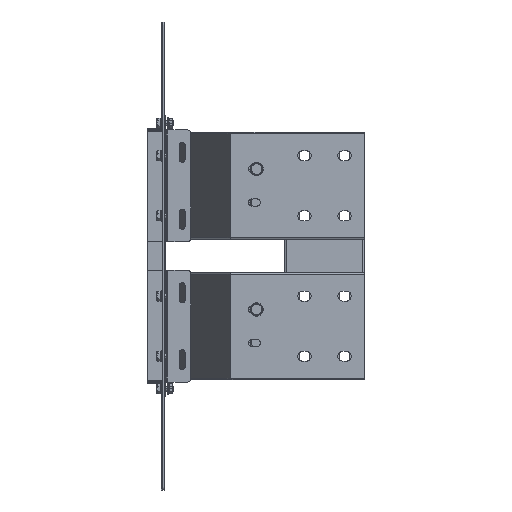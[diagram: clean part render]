
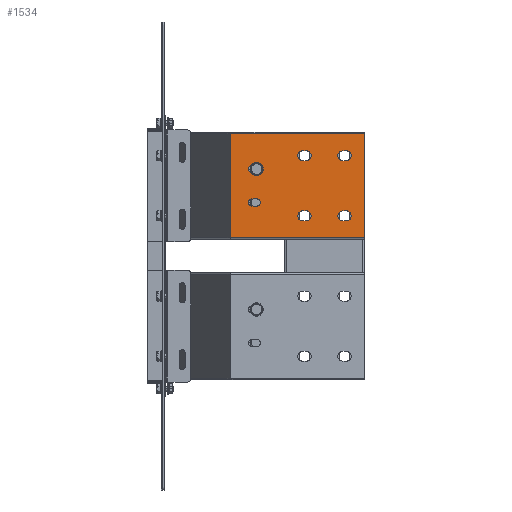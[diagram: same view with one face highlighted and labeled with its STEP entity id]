
A CAD part, front view. The second image highlights one B-rep face of the part: STEP entity #1534.
In plain terms, the highlighted planar face has unit normal (0, -1, 0).
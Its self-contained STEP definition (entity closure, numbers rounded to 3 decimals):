
#1290=AXIS2_PLACEMENT_3D('Circle Axis2P3D',#1288,#1289,$) ;
#1310=AXIS2_PLACEMENT_3D('Plane Axis2P3D',#1307,#1308,#1309) ;
#1348=AXIS2_PLACEMENT_3D('Circle Axis2P3D',#1346,#1347,$) ;
#1366=AXIS2_PLACEMENT_3D('Circle Axis2P3D',#1364,#1365,$) ;
#1382=AXIS2_PLACEMENT_3D('Circle Axis2P3D',#1380,#1381,$) ;
#1400=AXIS2_PLACEMENT_3D('Circle Axis2P3D',#1398,#1399,$) ;
#1416=AXIS2_PLACEMENT_3D('Circle Axis2P3D',#1414,#1415,$) ;
#1443=AXIS2_PLACEMENT_3D('Circle Axis2P3D',#1441,#1442,$) ;
#1457=AXIS2_PLACEMENT_3D('Circle Axis2P3D',#1455,#1456,$) ;
#1468=AXIS2_PLACEMENT_3D('Circle Axis2P3D',#1466,#1467,$) ;
#1484=AXIS2_PLACEMENT_3D('Circle Axis2P3D',#1482,#1483,$) ;
#1502=AXIS2_PLACEMENT_3D('Circle Axis2P3D',#1500,#1501,$) ;
#1518=AXIS2_PLACEMENT_3D('Circle Axis2P3D',#1516,#1517,$) ;
#1254=CARTESIAN_POINT('Vertex',(212.5,-217.1,52.5)) ;
#1257=CARTESIAN_POINT('Line Origine',(210.,-217.1,52.5)) ;
#1261=CARTESIAN_POINT('Vertex',(207.5,-217.1,52.5)) ;
#1288=CARTESIAN_POINT('Axis2P3D Location',(207.5,-217.1,45.)) ;
#1292=CARTESIAN_POINT('Vertex',(207.5,-217.1,37.5)) ;
#1307=CARTESIAN_POINT('Axis2P3D Location',(300.,-217.1,-77.9)) ;
#1312=CARTESIAN_POINT('Line Origine',(199.311,-217.1,-77.9)) ;
#1316=CARTESIAN_POINT('Vertex',(300.,-217.1,-77.9)) ;
#1318=CARTESIAN_POINT('Vertex',(98.622,-217.1,-77.9)) ;
#1321=CARTESIAN_POINT('Line Origine',(300.,-217.1,0.)) ;
#1325=CARTESIAN_POINT('Vertex',(300.,-217.1,77.9)) ;
#1328=CARTESIAN_POINT('Line Origine',(199.311,-217.1,77.9)) ;
#1332=CARTESIAN_POINT('Vertex',(98.622,-217.1,77.9)) ;
#1335=CARTESIAN_POINT('Line Origine',(98.622,-217.1,0.)) ;
#1346=CARTESIAN_POINT('Axis2P3D Location',(212.5,-217.1,45.)) ;
#1350=CARTESIAN_POINT('Vertex',(212.5,-217.1,37.5)) ;
#1353=CARTESIAN_POINT('Line Origine',(210.,-217.1,37.5)) ;
#1364=CARTESIAN_POINT('Axis2P3D Location',(272.5,-217.1,45.)) ;
#1368=CARTESIAN_POINT('Vertex',(272.5,-217.1,37.5)) ;
#1370=CARTESIAN_POINT('Vertex',(272.5,-217.1,52.5)) ;
#1373=CARTESIAN_POINT('Line Origine',(270.,-217.1,37.5)) ;
#1377=CARTESIAN_POINT('Vertex',(267.5,-217.1,37.5)) ;
#1380=CARTESIAN_POINT('Axis2P3D Location',(267.5,-217.1,45.)) ;
#1384=CARTESIAN_POINT('Vertex',(267.5,-217.1,52.5)) ;
#1387=CARTESIAN_POINT('Line Origine',(270.,-217.1,52.5)) ;
#1398=CARTESIAN_POINT('Axis2P3D Location',(207.5,-217.1,-45.)) ;
#1402=CARTESIAN_POINT('Vertex',(207.5,-217.1,-37.5)) ;
#1404=CARTESIAN_POINT('Vertex',(207.5,-217.1,-52.5)) ;
#1407=CARTESIAN_POINT('Line Origine',(210.,-217.1,-37.5)) ;
#1411=CARTESIAN_POINT('Vertex',(212.5,-217.1,-37.5)) ;
#1414=CARTESIAN_POINT('Axis2P3D Location',(212.5,-217.1,-45.)) ;
#1418=CARTESIAN_POINT('Vertex',(212.5,-217.1,-52.5)) ;
#1421=CARTESIAN_POINT('Line Origine',(210.,-217.1,-52.5)) ;
#1432=CARTESIAN_POINT('Line Origine',(270.,-217.1,-37.5)) ;
#1436=CARTESIAN_POINT('Vertex',(272.5,-217.1,-37.5)) ;
#1438=CARTESIAN_POINT('Vertex',(267.5,-217.1,-37.5)) ;
#1441=CARTESIAN_POINT('Axis2P3D Location',(272.5,-217.1,-45.)) ;
#1445=CARTESIAN_POINT('Vertex',(272.5,-217.1,-52.5)) ;
#1448=CARTESIAN_POINT('Line Origine',(270.,-217.1,-52.5)) ;
#1452=CARTESIAN_POINT('Vertex',(267.5,-217.1,-52.5)) ;
#1455=CARTESIAN_POINT('Axis2P3D Location',(267.5,-217.1,-45.)) ;
#1466=CARTESIAN_POINT('Axis2P3D Location',(138.5,-217.1,25.)) ;
#1470=CARTESIAN_POINT('Vertex',(138.5,-217.1,19.5)) ;
#1472=CARTESIAN_POINT('Vertex',(138.5,-217.1,30.5)) ;
#1475=CARTESIAN_POINT('Line Origine',(135.,-217.1,19.5)) ;
#1479=CARTESIAN_POINT('Vertex',(131.5,-217.1,19.5)) ;
#1482=CARTESIAN_POINT('Axis2P3D Location',(131.5,-217.1,25.)) ;
#1486=CARTESIAN_POINT('Vertex',(131.5,-217.1,30.5)) ;
#1489=CARTESIAN_POINT('Line Origine',(135.,-217.1,30.5)) ;
#1500=CARTESIAN_POINT('Axis2P3D Location',(131.5,-217.1,-25.)) ;
#1504=CARTESIAN_POINT('Vertex',(131.5,-217.1,-19.5)) ;
#1506=CARTESIAN_POINT('Vertex',(131.5,-217.1,-30.5)) ;
#1509=CARTESIAN_POINT('Line Origine',(135.,-217.1,-19.5)) ;
#1513=CARTESIAN_POINT('Vertex',(138.5,-217.1,-19.5)) ;
#1516=CARTESIAN_POINT('Axis2P3D Location',(138.5,-217.1,-25.)) ;
#1520=CARTESIAN_POINT('Vertex',(138.5,-217.1,-30.5)) ;
#1523=CARTESIAN_POINT('Line Origine',(135.,-217.1,-30.5)) ;
#1258=DIRECTION('Vector Direction',(1.,0.,0.)) ;
#1289=DIRECTION('Axis2P3D Direction',(0.,-1.,0.)) ;
#1308=DIRECTION('Axis2P3D Direction',(0.,-1.,0.)) ;
#1309=DIRECTION('Axis2P3D XDirection',(0.,0.,1.)) ;
#1313=DIRECTION('Vector Direction',(-1.,0.,0.)) ;
#1322=DIRECTION('Vector Direction',(0.,0.,1.)) ;
#1329=DIRECTION('Vector Direction',(-1.,0.,0.)) ;
#1336=DIRECTION('Vector Direction',(0.,0.,1.)) ;
#1347=DIRECTION('Axis2P3D Direction',(0.,-1.,0.)) ;
#1354=DIRECTION('Vector Direction',(-1.,0.,0.)) ;
#1365=DIRECTION('Axis2P3D Direction',(0.,-1.,0.)) ;
#1374=DIRECTION('Vector Direction',(1.,0.,0.)) ;
#1381=DIRECTION('Axis2P3D Direction',(0.,-1.,0.)) ;
#1388=DIRECTION('Vector Direction',(-1.,0.,0.)) ;
#1399=DIRECTION('Axis2P3D Direction',(0.,-1.,0.)) ;
#1408=DIRECTION('Vector Direction',(-1.,0.,0.)) ;
#1415=DIRECTION('Axis2P3D Direction',(0.,-1.,0.)) ;
#1422=DIRECTION('Vector Direction',(1.,0.,0.)) ;
#1433=DIRECTION('Vector Direction',(1.,0.,0.)) ;
#1442=DIRECTION('Axis2P3D Direction',(0.,-1.,0.)) ;
#1449=DIRECTION('Vector Direction',(-1.,0.,0.)) ;
#1456=DIRECTION('Axis2P3D Direction',(0.,-1.,0.)) ;
#1467=DIRECTION('Axis2P3D Direction',(0.,-1.,0.)) ;
#1476=DIRECTION('Vector Direction',(-1.,0.,0.)) ;
#1483=DIRECTION('Axis2P3D Direction',(0.,-1.,0.)) ;
#1490=DIRECTION('Vector Direction',(1.,0.,0.)) ;
#1501=DIRECTION('Axis2P3D Direction',(0.,-1.,0.)) ;
#1510=DIRECTION('Vector Direction',(-1.,0.,0.)) ;
#1517=DIRECTION('Axis2P3D Direction',(0.,-1.,0.)) ;
#1524=DIRECTION('Vector Direction',(1.,0.,0.)) ;
#1259=VECTOR('Line Direction',#1258,1.) ;
#1314=VECTOR('Line Direction',#1313,1.) ;
#1323=VECTOR('Line Direction',#1322,1.) ;
#1330=VECTOR('Line Direction',#1329,1.) ;
#1337=VECTOR('Line Direction',#1336,1.) ;
#1355=VECTOR('Line Direction',#1354,1.) ;
#1375=VECTOR('Line Direction',#1374,1.) ;
#1389=VECTOR('Line Direction',#1388,1.) ;
#1409=VECTOR('Line Direction',#1408,1.) ;
#1423=VECTOR('Line Direction',#1422,1.) ;
#1434=VECTOR('Line Direction',#1433,1.) ;
#1450=VECTOR('Line Direction',#1449,1.) ;
#1477=VECTOR('Line Direction',#1476,1.) ;
#1491=VECTOR('Line Direction',#1490,1.) ;
#1511=VECTOR('Line Direction',#1510,1.) ;
#1525=VECTOR('Line Direction',#1524,1.) ;
#1341=ORIENTED_EDGE('',*,*,#1320,.F.) ;
#1342=ORIENTED_EDGE('',*,*,#1327,.F.) ;
#1343=ORIENTED_EDGE('',*,*,#1334,.T.) ;
#1344=ORIENTED_EDGE('',*,*,#1339,.F.) ;
#1359=ORIENTED_EDGE('',*,*,#1352,.F.) ;
#1360=ORIENTED_EDGE('',*,*,#1357,.F.) ;
#1361=ORIENTED_EDGE('',*,*,#1294,.F.) ;
#1362=ORIENTED_EDGE('',*,*,#1263,.F.) ;
#1393=ORIENTED_EDGE('',*,*,#1372,.F.) ;
#1394=ORIENTED_EDGE('',*,*,#1379,.F.) ;
#1395=ORIENTED_EDGE('',*,*,#1386,.F.) ;
#1396=ORIENTED_EDGE('',*,*,#1391,.F.) ;
#1427=ORIENTED_EDGE('',*,*,#1406,.F.) ;
#1428=ORIENTED_EDGE('',*,*,#1413,.F.) ;
#1429=ORIENTED_EDGE('',*,*,#1420,.F.) ;
#1430=ORIENTED_EDGE('',*,*,#1425,.F.) ;
#1461=ORIENTED_EDGE('',*,*,#1440,.F.) ;
#1462=ORIENTED_EDGE('',*,*,#1447,.F.) ;
#1463=ORIENTED_EDGE('',*,*,#1454,.F.) ;
#1464=ORIENTED_EDGE('',*,*,#1459,.F.) ;
#1495=ORIENTED_EDGE('',*,*,#1474,.F.) ;
#1496=ORIENTED_EDGE('',*,*,#1481,.F.) ;
#1497=ORIENTED_EDGE('',*,*,#1488,.F.) ;
#1498=ORIENTED_EDGE('',*,*,#1493,.F.) ;
#1529=ORIENTED_EDGE('',*,*,#1508,.F.) ;
#1530=ORIENTED_EDGE('',*,*,#1515,.F.) ;
#1531=ORIENTED_EDGE('',*,*,#1522,.F.) ;
#1532=ORIENTED_EDGE('',*,*,#1527,.F.) ;
#1363=FACE_BOUND('',#1358,.T.) ;
#1397=FACE_BOUND('',#1392,.T.) ;
#1431=FACE_BOUND('',#1426,.T.) ;
#1465=FACE_BOUND('',#1460,.T.) ;
#1499=FACE_BOUND('',#1494,.T.) ;
#1533=FACE_BOUND('',#1528,.T.) ;
#1534=ADVANCED_FACE('N',(#1345,#1363,#1397,#1431,#1465,#1499,#1533),#1311,.T.) ;
#1291=CIRCLE('generated circle',#1290,7.5) ;
#1349=CIRCLE('generated circle',#1348,7.5) ;
#1367=CIRCLE('generated circle',#1366,7.5) ;
#1383=CIRCLE('generated circle',#1382,7.5) ;
#1401=CIRCLE('generated circle',#1400,7.5) ;
#1417=CIRCLE('generated circle',#1416,7.5) ;
#1444=CIRCLE('generated circle',#1443,7.5) ;
#1458=CIRCLE('generated circle',#1457,7.5) ;
#1469=CIRCLE('generated circle',#1468,5.5) ;
#1485=CIRCLE('generated circle',#1484,5.5) ;
#1503=CIRCLE('generated circle',#1502,5.5) ;
#1519=CIRCLE('generated circle',#1518,5.5) ;
#1263=EDGE_CURVE('',#1255,#1262,#1260,.F.) ;
#1294=EDGE_CURVE('',#1262,#1293,#1291,.T.) ;
#1320=EDGE_CURVE('',#1317,#1319,#1315,.T.) ;
#1327=EDGE_CURVE('',#1326,#1317,#1324,.F.) ;
#1334=EDGE_CURVE('',#1326,#1333,#1331,.T.) ;
#1339=EDGE_CURVE('',#1319,#1333,#1338,.T.) ;
#1352=EDGE_CURVE('',#1351,#1255,#1349,.T.) ;
#1357=EDGE_CURVE('',#1293,#1351,#1356,.F.) ;
#1372=EDGE_CURVE('',#1369,#1371,#1367,.T.) ;
#1379=EDGE_CURVE('',#1378,#1369,#1376,.T.) ;
#1386=EDGE_CURVE('',#1385,#1378,#1383,.T.) ;
#1391=EDGE_CURVE('',#1371,#1385,#1390,.T.) ;
#1406=EDGE_CURVE('',#1403,#1405,#1401,.T.) ;
#1413=EDGE_CURVE('',#1412,#1403,#1410,.T.) ;
#1420=EDGE_CURVE('',#1419,#1412,#1417,.T.) ;
#1425=EDGE_CURVE('',#1405,#1419,#1424,.T.) ;
#1440=EDGE_CURVE('',#1437,#1439,#1435,.F.) ;
#1447=EDGE_CURVE('',#1446,#1437,#1444,.T.) ;
#1454=EDGE_CURVE('',#1453,#1446,#1451,.F.) ;
#1459=EDGE_CURVE('',#1439,#1453,#1458,.T.) ;
#1474=EDGE_CURVE('',#1471,#1473,#1469,.T.) ;
#1481=EDGE_CURVE('',#1480,#1471,#1478,.F.) ;
#1488=EDGE_CURVE('',#1487,#1480,#1485,.T.) ;
#1493=EDGE_CURVE('',#1473,#1487,#1492,.F.) ;
#1508=EDGE_CURVE('',#1505,#1507,#1503,.T.) ;
#1515=EDGE_CURVE('',#1514,#1505,#1512,.T.) ;
#1522=EDGE_CURVE('',#1521,#1514,#1519,.T.) ;
#1527=EDGE_CURVE('',#1507,#1521,#1526,.T.) ;
#1340=EDGE_LOOP('',(#1341,#1342,#1343,#1344)) ;
#1358=EDGE_LOOP('',(#1359,#1360,#1361,#1362)) ;
#1392=EDGE_LOOP('',(#1393,#1394,#1395,#1396)) ;
#1426=EDGE_LOOP('',(#1427,#1428,#1429,#1430)) ;
#1460=EDGE_LOOP('',(#1461,#1462,#1463,#1464)) ;
#1494=EDGE_LOOP('',(#1495,#1496,#1497,#1498)) ;
#1528=EDGE_LOOP('',(#1529,#1530,#1531,#1532)) ;
#1345=FACE_OUTER_BOUND('',#1340,.T.) ;
#1260=LINE('Line',#1257,#1259) ;
#1315=LINE('Line',#1312,#1314) ;
#1324=LINE('Line',#1321,#1323) ;
#1331=LINE('Line',#1328,#1330) ;
#1338=LINE('Line',#1335,#1337) ;
#1356=LINE('Line',#1353,#1355) ;
#1376=LINE('Line',#1373,#1375) ;
#1390=LINE('Line',#1387,#1389) ;
#1410=LINE('Line',#1407,#1409) ;
#1424=LINE('Line',#1421,#1423) ;
#1435=LINE('Line',#1432,#1434) ;
#1451=LINE('Line',#1448,#1450) ;
#1478=LINE('Line',#1475,#1477) ;
#1492=LINE('Line',#1489,#1491) ;
#1512=LINE('Line',#1509,#1511) ;
#1526=LINE('Line',#1523,#1525) ;
#1311=PLANE('',#1310) ;
#1255=VERTEX_POINT('',#1254) ;
#1262=VERTEX_POINT('',#1261) ;
#1293=VERTEX_POINT('',#1292) ;
#1317=VERTEX_POINT('',#1316) ;
#1319=VERTEX_POINT('',#1318) ;
#1326=VERTEX_POINT('',#1325) ;
#1333=VERTEX_POINT('',#1332) ;
#1351=VERTEX_POINT('',#1350) ;
#1369=VERTEX_POINT('',#1368) ;
#1371=VERTEX_POINT('',#1370) ;
#1378=VERTEX_POINT('',#1377) ;
#1385=VERTEX_POINT('',#1384) ;
#1403=VERTEX_POINT('',#1402) ;
#1405=VERTEX_POINT('',#1404) ;
#1412=VERTEX_POINT('',#1411) ;
#1419=VERTEX_POINT('',#1418) ;
#1437=VERTEX_POINT('',#1436) ;
#1439=VERTEX_POINT('',#1438) ;
#1446=VERTEX_POINT('',#1445) ;
#1453=VERTEX_POINT('',#1452) ;
#1471=VERTEX_POINT('',#1470) ;
#1473=VERTEX_POINT('',#1472) ;
#1480=VERTEX_POINT('',#1479) ;
#1487=VERTEX_POINT('',#1486) ;
#1505=VERTEX_POINT('',#1504) ;
#1507=VERTEX_POINT('',#1506) ;
#1514=VERTEX_POINT('',#1513) ;
#1521=VERTEX_POINT('',#1520) ;
